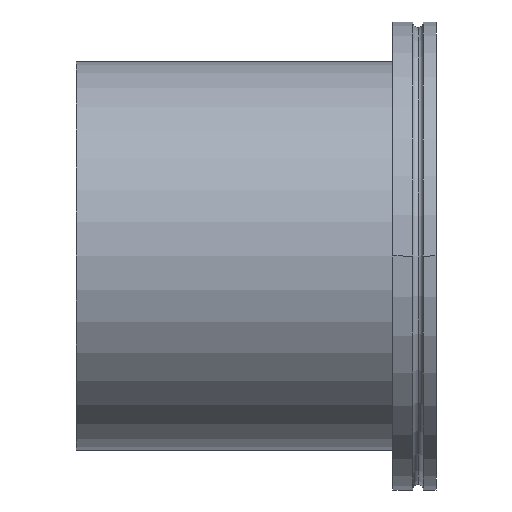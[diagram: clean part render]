
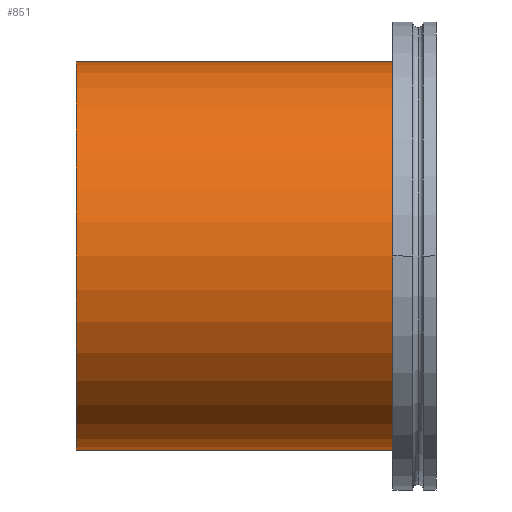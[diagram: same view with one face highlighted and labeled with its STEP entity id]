
A CAD part, front view. The second image highlights one B-rep face of the part: STEP entity #851.
In plain terms, the highlighted cylindrical face has radius 54 mm (diameter 108 mm), a partial arc.
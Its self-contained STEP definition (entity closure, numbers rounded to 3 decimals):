
#705=CARTESIAN_POINT('',(-88.0,0.,-54.0));
#706=VERTEX_POINT('',#705);
#707=CARTESIAN_POINT('',(6.0,0.,-54.0));
#708=VERTEX_POINT('',#707);
#709=CARTESIAN_POINT('',(-88.0,0.,-54.0));
#710=DIRECTION('',(1.0,0.0,0.0));
#711=VECTOR('',#710,94.0);
#712=LINE('',#709,#711);
#713=EDGE_CURVE('',#706,#708,#712,.T.);
#715=CARTESIAN_POINT('',(-88.0,0.,54.0));
#716=VERTEX_POINT('',#715);
#724=CARTESIAN_POINT('',(6.,0.,54.0));
#725=VERTEX_POINT('',#724);
#726=CARTESIAN_POINT('',(6.,0.,54.0));
#727=DIRECTION('',(-1.0,0.0,0.0));
#728=VECTOR('',#727,94.0);
#729=LINE('',#726,#728);
#730=EDGE_CURVE('',#725,#716,#729,.T.);
#828=CARTESIAN_POINT('',(-88.0,0.0,0.0));
#829=DIRECTION('',(1.0,0.0,0.0));
#830=DIRECTION('',(0.0,0.0,-1.0));
#831=AXIS2_PLACEMENT_3D('',#828,#829,#830);
#832=CYLINDRICAL_SURFACE('',#831,54.0);
#833=ORIENTED_EDGE('',*,*,#713,.T.);
#834=CARTESIAN_POINT('',(6.,0.0,0.0));
#835=DIRECTION('',(1.0,0.0,0.0));
#836=DIRECTION('',(0.0,0.0,-1.0));
#837=AXIS2_PLACEMENT_3D('',#834,#835,#836);
#838=CIRCLE('',#837,54.0);
#839=EDGE_CURVE('',#725,#708,#838,.T.);
#840=ORIENTED_EDGE('',*,*,#839,.F.);
#841=ORIENTED_EDGE('',*,*,#730,.T.);
#842=CARTESIAN_POINT('',(-88.0,0.0,0.0));
#843=DIRECTION('',(-1.0,0.0,0.0));
#844=DIRECTION('',(0.0,0.0,-1.0));
#845=AXIS2_PLACEMENT_3D('',#842,#843,#844);
#846=CIRCLE('',#845,54.0);
#847=EDGE_CURVE('',#706,#716,#846,.T.);
#848=ORIENTED_EDGE('',*,*,#847,.F.);
#849=EDGE_LOOP('',(#833,#840,#841,#848));
#850=FACE_OUTER_BOUND('',#849,.T.);
#851=ADVANCED_FACE('',(#850),#832,.T.);
